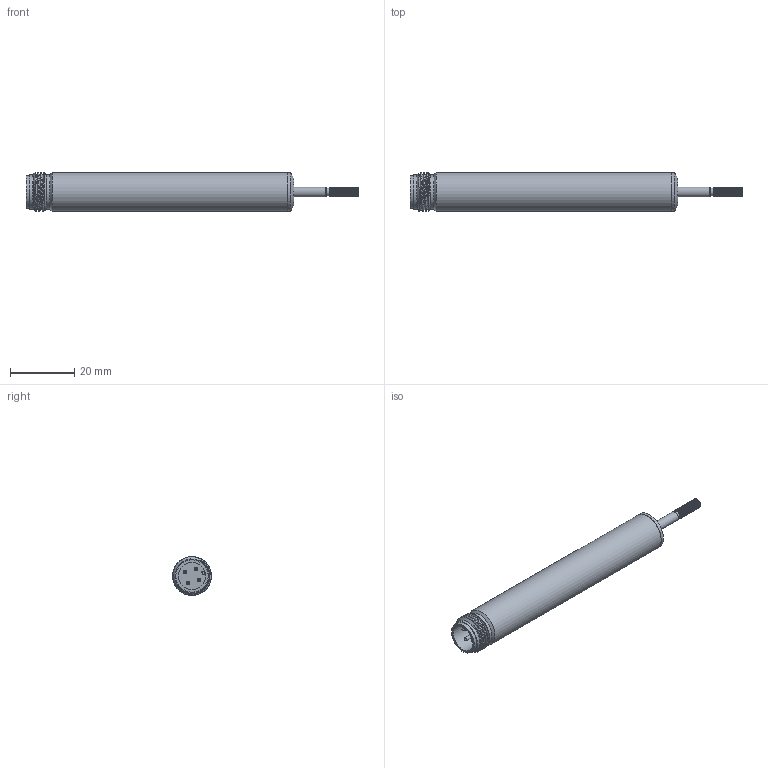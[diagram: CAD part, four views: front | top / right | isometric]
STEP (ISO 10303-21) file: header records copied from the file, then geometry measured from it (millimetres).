
FILE_DESCRIPTION( ( 'STEP AP214' ), '1' );
FILE_NAME( 'N:/Engineering/CAD_Solid/LVDT/SM/Kunden-3D-Modell/SM10-SG-SA.stp', '2011-12-12T13:24:57', ( ' ' ), ( ' ' ), 'XStep 1.0', ' ', ' ' );
FILE_SCHEMA( ( 'CONFIG_CONTROL_DESIGN) ( )' ) );
Length unit declared in the file: metre
Products named in the file (3): 1; 2; 3
Bounding box: 103.1 x 12 x 12 mm (x, y, z)
Surface area: 4150 mm2 (no closed solid volume)
Topology: 0 solids, 51 shells, 52 faces, 204 edges, 181 vertices
Faces by surface type: cylinder 21, plane 12, cone 9, bspline 9, torus 1
Full cylindrical faces by diameter (mm): 1 x4, 2.4 x1, 3 x1, 8.5 x1, 10 x1, 10.6 x2, 12 x2
Entity records: 6231 total; most frequent: CARTESIAN_POINT 4369, DIRECTION 308, ORIENTED_EDGE 170, EDGE_CURVE 170, VERTEX_POINT 170, AXIS2_PLACEMENT_3D 137, CIRCLE 92, FACE_BOUND 83
